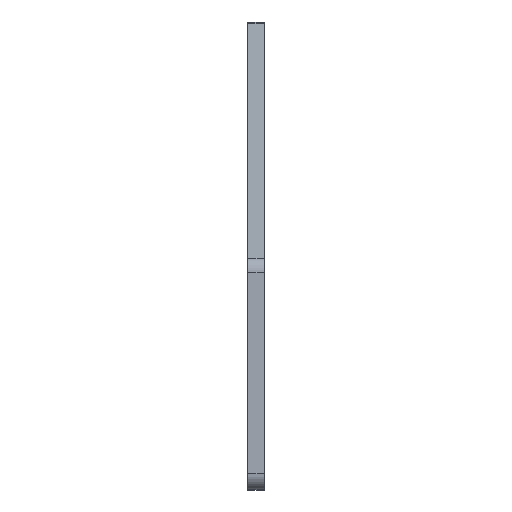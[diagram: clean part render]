
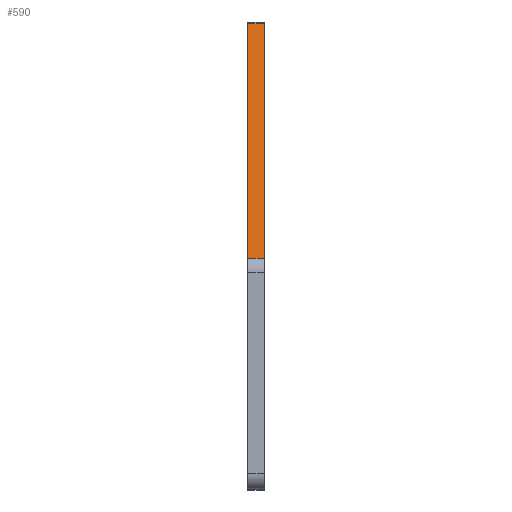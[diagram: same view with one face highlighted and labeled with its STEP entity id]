
A CAD part, left-side view. The second image highlights one B-rep face of the part: STEP entity #590.
In plain terms, the highlighted planar face has unit normal (-0.447, 0, 0.894).
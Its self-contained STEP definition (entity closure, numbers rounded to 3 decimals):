
#11 = CARTESIAN_POINT ( 'NONE',  ( -108.842, 0., 22.093 ) ) ;
#30 = VECTOR ( 'NONE', #933, 1000. ) ;
#86 = CARTESIAN_POINT ( 'NONE',  ( -108.842, 3., 22.093 ) ) ;
#101 = VERTEX_POINT ( 'NONE', #11 ) ;
#127 = EDGE_CURVE ( 'NONE', #450, #101, #267, .T. ) ;
#151 = DIRECTION ( 'NONE',  ( -0.894, 0., -0.447 ) ) ;
#156 = VECTOR ( 'NONE', #151, 1000. ) ;
#170 = PLANE ( 'NONE',  #455 ) ;
#244 = VECTOR ( 'NONE', #314, 1000. ) ;
#249 = VERTEX_POINT ( 'NONE', #564 ) ;
#257 = VERTEX_POINT ( 'NONE', #86 ) ;
#258 = LINE ( 'NONE', #773, #244 ) ;
#264 = EDGE_CURVE ( 'NONE', #249, #450, #258, .T. ) ;
#267 = LINE ( 'NONE', #611, #156 ) ;
#314 = DIRECTION ( 'NONE',  ( 0., -1., 0. ) ) ;
#315 = EDGE_CURVE ( 'NONE', #249, #257, #355, .T. ) ;
#342 = CARTESIAN_POINT ( 'NONE',  ( -22.661, 0., 65.183 ) ) ;
#355 = LINE ( 'NONE', #851, #30 ) ;
#367 = FACE_OUTER_BOUND ( 'NONE', #396, .T. ) ;
#396 = EDGE_LOOP ( 'NONE', ( #796, #772, #475, #676 ) ) ;
#425 = DIRECTION ( 'NONE',  ( 0., 1., 0. ) ) ;
#450 = VERTEX_POINT ( 'NONE', #342 ) ;
#454 = EDGE_CURVE ( 'NONE', #101, #257, #883, .T. ) ;
#455 = AXIS2_PLACEMENT_3D ( 'NONE', #831, #683, #755 ) ;
#475 = ORIENTED_EDGE ( 'NONE', *, *, #127, .F. ) ;
#564 = CARTESIAN_POINT ( 'NONE',  ( -22.661, 3., 65.183 ) ) ;
#590 = ADVANCED_FACE ( 'NONE', ( #367 ), #170, .T. ) ;
#611 = CARTESIAN_POINT ( 'NONE',  ( -22.028, 0., 65.5 ) ) ;
#676 = ORIENTED_EDGE ( 'NONE', *, *, #264, .F. ) ;
#683 = DIRECTION ( 'NONE',  ( -0.447, 0., 0.894 ) ) ;
#755 = DIRECTION ( 'NONE',  ( -0.894, 0., -0.447 ) ) ;
#772 = ORIENTED_EDGE ( 'NONE', *, *, #454, .F. ) ;
#773 = CARTESIAN_POINT ( 'NONE',  ( -22.661, 0., 65.183 ) ) ;
#796 = ORIENTED_EDGE ( 'NONE', *, *, #315, .T. ) ;
#805 = VECTOR ( 'NONE', #425, 1000. ) ;
#831 = CARTESIAN_POINT ( 'NONE',  ( -22.028, 0., 65.5 ) ) ;
#851 = CARTESIAN_POINT ( 'NONE',  ( -22.028, 3., 65.5 ) ) ;
#858 = CARTESIAN_POINT ( 'NONE',  ( -108.842, 0., 22.093 ) ) ;
#883 = LINE ( 'NONE', #858, #805 ) ;
#933 = DIRECTION ( 'NONE',  ( -0.894, 0., -0.447 ) ) ;
